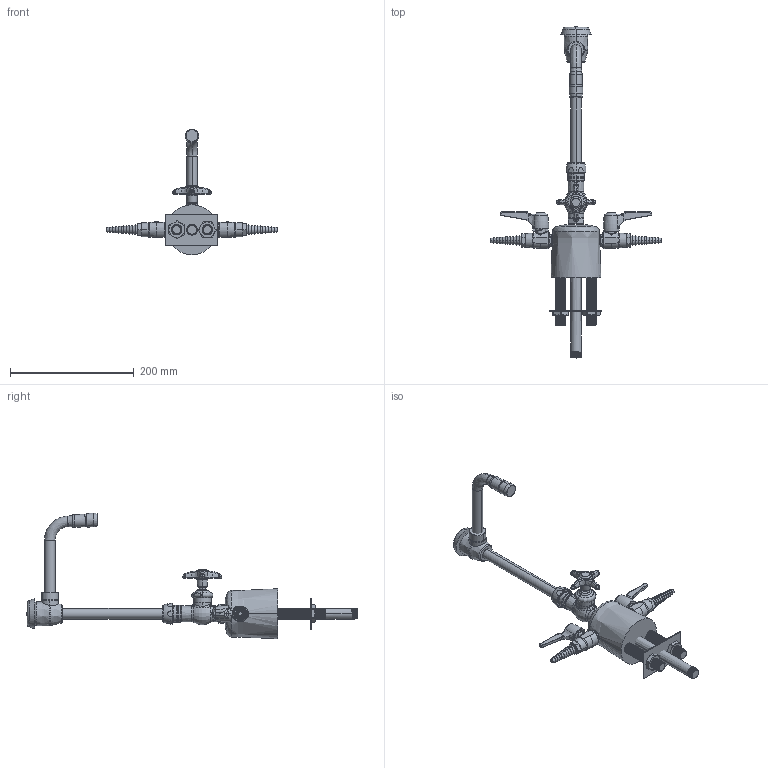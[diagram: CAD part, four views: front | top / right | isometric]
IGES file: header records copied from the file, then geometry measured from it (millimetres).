
Start section:  PTC IGES file: LCF1-CA-A1B2.igs
Global section: file name: LCF1-CA-A1B2.igs; native system: Creo Parametric by PTC Inc.; preprocessor: 2014500; author: usch_engrender; organization: Unknown; date: 20160208.093117; units: inch
Bounding box: 276.86 x 536.51 x 202.84 mm (x, y, z)
Surface area: 144297.1 mm2 (no closed solid volume)
Topology: 0 solids, 72 shells, 1056 faces, 2930 edges, 1904 vertices
Faces by surface type: revolution 640, bspline 416
